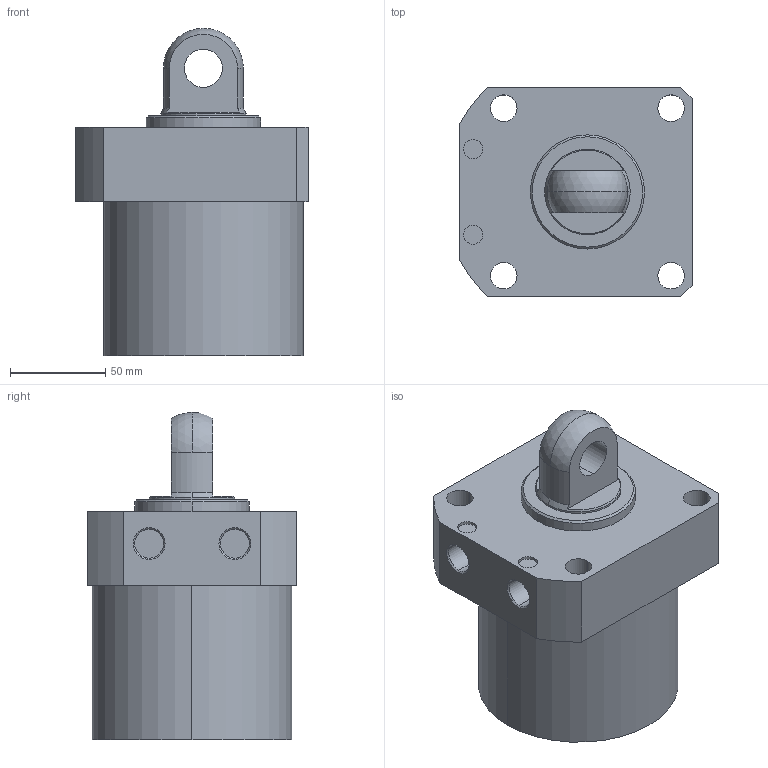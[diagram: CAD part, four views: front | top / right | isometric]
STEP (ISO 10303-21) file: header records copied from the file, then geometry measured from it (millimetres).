
FILE_DESCRIPTION (( 'STEP AP203' ), '1' );
FILE_NAME ('CLLR-105CP-060.STEP', '2019-12-19T02:07:33', ( '' ), ( '' ), 'SwSTEP 2.0', 'SolidWorks 2015', '' );
FILE_SCHEMA (( 'CONFIG_CONTROL_DESIGN' ));
Length unit declared in the file: millimetre
Products named in the file (1): CLLR-105CP-060
Bounding box: 122 x 110 x 172 mm (x, y, z)
Volume: 1227582 mm3; surface area: 84398.3 mm2
Topology: 1 solids, 1 shells, 57 faces, 135 edges, 87 vertices
Faces by surface type: cylinder 29, plane 18, cone 8, sphere 2
Entity records: 1770 total; most frequent: DIRECTION 319, CARTESIAN_POINT 292, ORIENTED_EDGE 270, EDGE_CURVE 135, AXIS2_PLACEMENT_3D 130, VERTEX_POINT 87, EDGE_LOOP 74, CIRCLE 72
